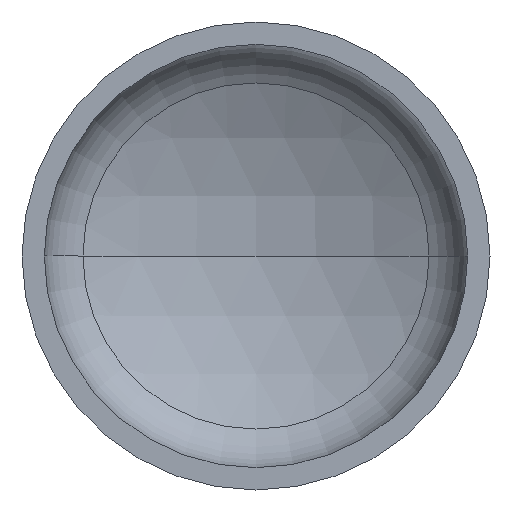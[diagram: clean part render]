
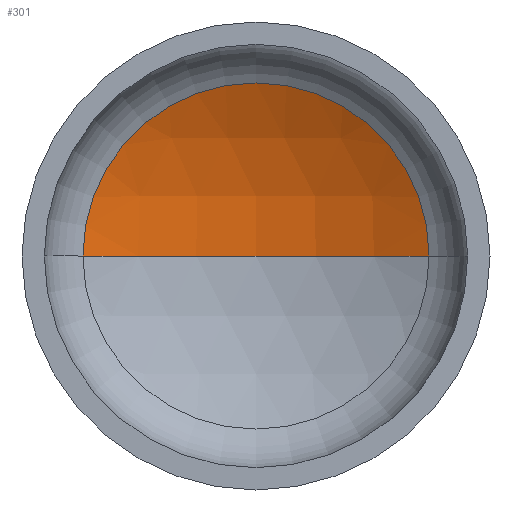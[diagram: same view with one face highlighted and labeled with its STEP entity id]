
A CAD part, front view. The second image highlights one B-rep face of the part: STEP entity #301.
In plain terms, the highlighted spherical face has radius 218 mm.
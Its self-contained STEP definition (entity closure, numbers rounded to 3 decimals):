
#1 = CIRCLE ( 'NONE', #8, 218. ) ;
#8 = AXIS2_PLACEMENT_3D ( 'NONE', #408, #277, #57 ) ;
#19 = AXIS2_PLACEMENT_3D ( 'NONE', #164, #332, #199 ) ;
#27 = VERTEX_POINT ( 'NONE', #260 ) ;
#39 = ORIENTED_EDGE ( 'NONE', *, *, #364, .F. ) ;
#47 = AXIS2_PLACEMENT_3D ( 'NONE', #362, #226, #108 ) ;
#55 = AXIS2_PLACEMENT_3D ( 'NONE', #241, #289, #283 ) ;
#57 = DIRECTION ( 'NONE',  ( -1., 0., 0. ) ) ;
#74 = EDGE_LOOP ( 'NONE', ( #39, #182, #100 ) ) ;
#76 = VERTEX_POINT ( 'NONE', #262 ) ;
#100 = ORIENTED_EDGE ( 'NONE', *, *, #383, .T. ) ;
#108 = DIRECTION ( 'NONE',  ( 1., 0., 0. ) ) ;
#111 = SPHERICAL_SURFACE ( 'NONE', #55, 218. ) ;
#143 = CARTESIAN_POINT ( 'NONE',  ( 0., 102.007, 0. ) ) ;
#154 = VERTEX_POINT ( 'NONE', #143 ) ;
#164 = CARTESIAN_POINT ( 'NONE',  ( 0., -115.993, 0. ) ) ;
#174 = CIRCLE ( 'NONE', #47, 100.949 ) ;
#182 = ORIENTED_EDGE ( 'NONE', *, *, #382, .T. ) ;
#183 = CIRCLE ( 'NONE', #19, 218. ) ;
#199 = DIRECTION ( 'NONE',  ( 1., 0., 0. ) ) ;
#226 = DIRECTION ( 'NONE',  ( 0., -1., 0. ) ) ;
#241 = CARTESIAN_POINT ( 'NONE',  ( 0., -115.993, 0. ) ) ;
#260 = CARTESIAN_POINT ( 'NONE',  ( -100.949, 77.226, 0. ) ) ;
#262 = CARTESIAN_POINT ( 'NONE',  ( 100.949, 77.226, 0. ) ) ;
#277 = DIRECTION ( 'NONE',  ( 0., 0., -1. ) ) ;
#283 = DIRECTION ( 'NONE',  ( -1., 0., 0. ) ) ;
#289 = DIRECTION ( 'NONE',  ( 0., 0., -1. ) ) ;
#301 = ADVANCED_FACE ( 'NONE', ( #328 ), #111, .F. ) ;
#328 = FACE_OUTER_BOUND ( 'NONE', #74, .T. ) ;
#332 = DIRECTION ( 'NONE',  ( 0., 0., 1. ) ) ;
#362 = CARTESIAN_POINT ( 'NONE',  ( 0., 77.226, 0. ) ) ;
#364 = EDGE_CURVE ( 'NONE', #154, #27, #183, .T. ) ;
#382 = EDGE_CURVE ( 'NONE', #154, #76, #1, .T. ) ;
#383 = EDGE_CURVE ( 'NONE', #76, #27, #174, .T. ) ;
#408 = CARTESIAN_POINT ( 'NONE',  ( 0., -115.993, 0. ) ) ;
